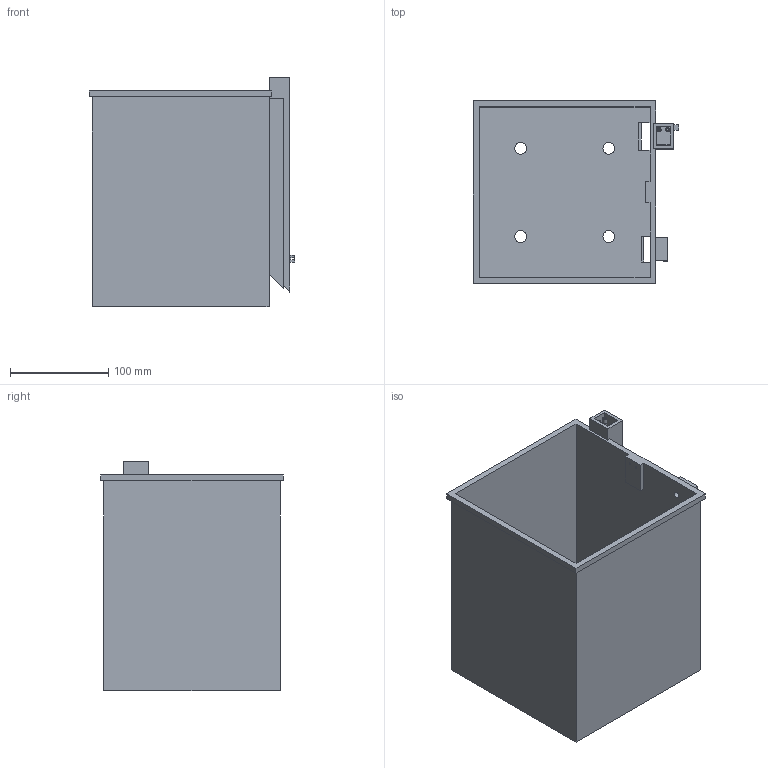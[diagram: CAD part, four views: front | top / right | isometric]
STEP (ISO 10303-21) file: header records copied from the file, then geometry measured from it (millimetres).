
FILE_DESCRIPTION(('Open CASCADE Model'),'2;1');
FILE_NAME('Open CASCADE Shape Model','2026-07-25T17:37:02',('Author'),( 'Open CASCADE'),'Open CASCADE STEP processor 7.9','build123d', 'Unknown');
FILE_SCHEMA(('AUTOMOTIVE_DESIGN { 1 0 10303 214 1 1 1 1 }'));
Products named in the file (1): COMPOUND
Bounding box: 209 x 186 x 234 mm (x, y, z)
Volume: 732751.6 mm3; surface area: 397444.3 mm2
Topology: 1 solids, 1 shells, 637 faces, 1745 edges, 1162 vertices
Faces by surface type: extrusion 359, plane 263, cylinder 15
Full cylindrical faces by diameter (mm): 2.1 x4, 2.6 x2, 4.2 x2, 6.4 x1, 12 x4
Entity records: 49460 total; most frequent: CARTESIAN_POINT 18454, DIRECTION 3949, ORIENTED_EDGE 3490, PCURVE 3490, DEFINITIONAL_REPRESENTATION 3490, VECTOR 3298, LINE 2939, B_SPLINE_CURVE_WITH_KNOTS 2593
